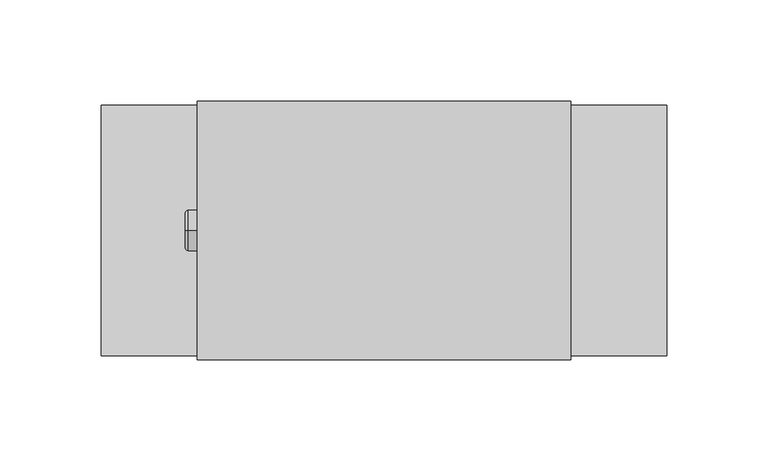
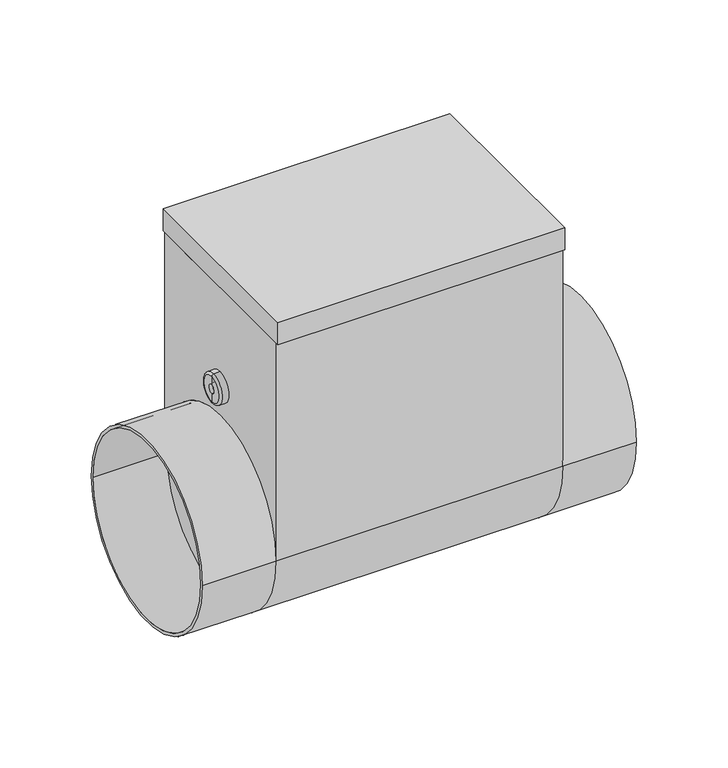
"""IFC4 building model written with IfcOpenShell, lengths in millimetres: proxy geometry, СВ_ВоздухонагревательЭлектрический_КанальныйКруглый_DN100-315_SKH-E : SKH-E-125/1,5."""

from ifc_helpers import new_model, si_unit, point, frame, origin, place, context, project, spatial, polyline, circle_curve, ellipse_curve, trimmed, outline, extrude, source, transform, mapped, element, save
from ifc_brep_helpers import plane_surface, cylinder_surface, revolved_surface, advanced_brep


def mechanical_equipment_228ba155(model_context):
    return source(origin(), model_context, "Body", "SolidModel", [
        extrude(outline(polyline([(92.5, -64.0), (-92.5, -64.0), (-92.5, 64.0), (92.5, 64.0), (92.5, -64.0)])), frame((0.0, 0.0, 149.0), z_axis=(0.0, 0.0, 1.0), x_axis=(1.0, 0.0, 0.0)), (0.0, 0.0, 1.0), 15.0),
        advanced_brep(
        [(-140.0, -62.0, 0.0), (-140.0, 62.0, 0.0), (-140.0, -60.0, 0.0), (-140.0, 60.0, 0.0), (-92.5, 60.0, 0.0), (-92.5, -60.0, 0.0), (-92.5, 62.0, 0.0), (-92.5, -62.0, 0.0), (92.5, -60.0, 0.0), (92.5, 60.0, 0.0), (92.5, -62.0, 149.0), (92.5, -62.0, 0.0), (92.5, 62.0, 0.0), (92.5, 62.0, 149.0), (-92.5, -62.0, 149.0), (-92.5, 62.0, 149.0), (140.0, -62.0, 0.0), (140.0, 62.0, 0.0), (140.0, -60.0, 0.0), (140.0, 60.0, 0.0)],
        [
            (0, 1, circle_curve(frame((-140.0, 0.0, 0.0), z_axis=(-1.0, 0.0, 0.0), x_axis=(0.0, 1.0, 0.0)), 62.0)),
            (1, 0, circle_curve(frame((-140.0, 0.0, 0.0), z_axis=(-1.0, 0.0, 0.0), x_axis=(0.0, 1.0, 0.0)), 62.0)),
            (2, 3, circle_curve(frame((-140.0, 0.0, 0.0), z_axis=(1.0, 0.0, 0.0), x_axis=(0.0, 1.0, 0.0)), 60.0)),
            (3, 2, circle_curve(frame((-140.0, 0.0, 0.0), z_axis=(1.0, 0.0, 0.0), x_axis=(0.0, 1.0, 0.0)), 60.0)),
            (3, 4),
            (4, 5, circle_curve(frame((-92.5, 0.0, 0.0), z_axis=(1.0, 0.0, 0.0), x_axis=(0.0, 1.0, 0.0)), 60.0)),
            (5, 2),
            (5, 4, circle_curve(frame((-92.5, 0.0, 0.0), z_axis=(1.0, 0.0, 0.0), x_axis=(0.0, 1.0, 0.0)), 60.0)),
            (1, 6),
            (6, 7, circle_curve(frame((-92.5, 0.0, 0.0), z_axis=(-1.0, 0.0, 0.0), x_axis=(0.0, 1.0, 0.0)), 62.0)),
            (7, 0),
            (7, 6, circle_curve(frame((-92.5, 0.0, 0.0), z_axis=(-1.0, 0.0, 0.0), x_axis=(0.0, 1.0, 0.0)), 62.0)),
            (8, 9, circle_curve(frame((92.5, 0.0, 0.0), z_axis=(1.0, 0.0, 0.0), x_axis=(0.0, 1.0, 0.0)), 60.0)),
            (9, 8, circle_curve(frame((92.5, 0.0, 0.0), z_axis=(1.0, 0.0, 0.0), x_axis=(0.0, 1.0, 0.0)), 60.0)),
            (10, 11),
            (11, 12, circle_curve(frame((92.5, 0.0, 0.0), z_axis=(-1.0, 0.0, 0.0), x_axis=(0.0, 1.0, 0.0)), 62.0)),
            (12, 13),
            (13, 10),
            (7, 14),
            (14, 15),
            (15, 6),
            (6, 12),
            (12, 11, circle_curve(frame((92.5, 0.0, 0.0), z_axis=(-1.0, 0.0, 0.0), x_axis=(0.0, 1.0, 0.0)), 62.0)),
            (11, 7),
            (16, 17, circle_curve(frame((140.0, 0.0, 0.0), z_axis=(1.0, 0.0, 0.0), x_axis=(0.0, 1.0, 0.0)), 62.0)),
            (17, 16, circle_curve(frame((140.0, 0.0, 0.0), z_axis=(1.0, 0.0, 0.0), x_axis=(0.0, 1.0, 0.0)), 62.0)),
            (18, 19, circle_curve(frame((140.0, 0.0, 0.0), z_axis=(-1.0, 0.0, 0.0), x_axis=(0.0, 1.0, 0.0)), 60.0)),
            (19, 18, circle_curve(frame((140.0, 0.0, 0.0), z_axis=(-1.0, 0.0, 0.0), x_axis=(0.0, 1.0, 0.0)), 60.0)),
            (18, 8),
            (9, 19),
            (16, 11),
            (12, 17),
            (10, 14),
            (15, 13),
        ],
        [
            plane_surface(frame((-140.0, 60.0, 0.0), z_axis=(-1.0, 0.0, 0.0), x_axis=(0.0, 0.0, 1.0))),
            revolved_surface(polyline([(-140.0, 60.0, 0.0), (-92.5, 60.0, 0.0)]), (-140.0, 0.0, 0.0), (-1.0, 0.0, 0.0)),
            cylinder_surface(frame((0.0, 0.0, 0.0), z_axis=(1.0, 0.0, 0.0), x_axis=(0.0, 1.0, 0.0)), 62.0),
            plane_surface(frame((92.5, 62.0, 0.0), z_axis=(1.0, 0.0, 0.0), x_axis=(0.0, -1.0, 0.0))),
            plane_surface(frame((-92.5, 62.0, 0.0), z_axis=(-1.0, 0.0, 0.0), x_axis=(0.0, 1.0, 0.0))),
            cylinder_surface(frame((-92.5, 0.0, 0.0), z_axis=(1.0, 0.0, 0.0), x_axis=(0.0, 1.0, 0.0)), 62.0),
            plane_surface(frame((140.0, 60.0, 0.0), z_axis=(1.0, 0.0, 0.0), x_axis=(0.0, 0.0, -1.0))),
            revolved_surface(polyline([(92.5, 60.0, 0.0), (140.0, 60.0, 0.0)]), (92.5, 0.0, 0.0), (-1.0, 0.0, 0.0)),
            plane_surface(frame((-92.5, -62.0, 149.0), z_axis=(0.0, -1.0, 0.0), x_axis=(-1.0, 0.0, 0.0))),
            plane_surface(frame((-92.5, 62.0, 149.0), z_axis=(0.0, 1.0, 0.0), x_axis=(1.0, 0.0, 0.0))),
            plane_surface(frame((92.5, -62.0, 149.0), z_axis=(0.0, 0.0, 1.0), x_axis=(0.0, 1.0, 0.0))),
        ],
        [
            (0, [[1, 2], [3, 4]]),
            (1, [[-4, 5, 6, 7]]),
            (1, [[-3, -7, 8, -5]]),
            (2, [[-2, 9, 10, 11]]),
            (2, [[-1, -11, 12, -9]]),
            (3, [[13, 14]]),
            (3, [[15, 16, 17, 18]]),
            (4, [[-8, -6]]),
            (4, [[19, 20, 21, -12]]),
            (5, [[-10, 22, 23, 24]]),
            (6, [[25, 26], [27, 28]]),
            (7, [[-27, 29, -14, 30]]),
            (7, [[-28, -30, -13, -29]]),
            (2, [[-25, 31, -23, 32]]),
            (2, [[-26, -32, -16, -31]]),
            (8, [[33, -19, -24, -15]]),
            (9, [[-17, -22, -21, 34]]),
            (10, [[-33, -18, -34, -20]]),
        ],
    ),
        advanced_brep(
        [(-96.7840134, 0.0, 72.0), (-96.7840134, 0.0, 92.0), (-92.5, 0.0, 92.0), (-92.5, 0.0, 72.0), (-98.2459771, 0.0, 73.4619637), (-98.2459771, 0.0, 90.5380363), (-98.2459771, 0.0, 78.8948071), (-98.2459771, 0.0, 85.1051929), (-95.9138357, 0.0, 78.8948071), (-95.9138357, 0.0, 85.1051929), (-95.9138357, 0.0, 82.0), (-92.5, 0.0, 82.0)],
        [
            (0, 1, circle_curve(frame((-96.7840134, 0.0, 82.0), z_axis=(1.0, 0.0, 0.0), x_axis=(0.0, 0.0, 1.0)), 10.0)),
            (1, 2),
            (2, 3, circle_curve(frame((-92.5, 0.0, 82.0), z_axis=(-1.0, 0.0, 0.0), x_axis=(0.0, 0.0, 1.0)), 10.0)),
            (3, 0),
            (1, 0, circle_curve(frame((-96.7840134, 0.0, 82.0), z_axis=(1.0, 0.0, 0.0), x_axis=(0.0, 0.0, 1.0)), 10.0)),
            (3, 2, circle_curve(frame((-92.5, 0.0, 82.0), z_axis=(-1.0, 0.0, 0.0), x_axis=(0.0, 0.0, 1.0)), 10.0)),
            (4, 5, circle_curve(frame((-98.2459771, 0.0, 82.0), z_axis=(1.0, 0.0, 0.0), x_axis=(0.0, 0.0, 1.0)), 8.5380363)),
            (5, 1, circle_curve(frame((-96.7840134, 0.0, 90.5380363), z_axis=(0.0, 1.0, 0.0), x_axis=(1.0, 0.0, 0.0)), 1.4619637)),
            (0, 4, circle_curve(frame((-96.7840134, 0.0, 73.4619637), z_axis=(0.0, 1.0, 0.0), x_axis=(1.0, 0.0, 0.0)), 1.4619637)),
            (5, 4, circle_curve(frame((-98.2459771, 0.0, 82.0), z_axis=(1.0, 0.0, 0.0), x_axis=(0.0, 0.0, 1.0)), 8.5380363)),
            (6, 7, circle_curve(frame((-98.2459771, 0.0, 82.0), z_axis=(1.0, 0.0, 0.0), x_axis=(0.0, 0.0, 1.0)), 3.1051929)),
            (7, 5),
            (4, 6),
            (7, 6, circle_curve(frame((-98.2459771, 0.0, 82.0), z_axis=(1.0, 0.0, 0.0), x_axis=(0.0, 0.0, 1.0)), 3.1051929)),
            (8, 9, circle_curve(frame((-95.9138357, 0.0, 82.0), z_axis=(1.0, 0.0, 0.0), x_axis=(0.0, 0.0, 1.0)), 3.1051929)),
            (9, 7),
            (6, 8),
            (9, 8, circle_curve(frame((-95.9138357, 0.0, 82.0), z_axis=(1.0, 0.0, 0.0), x_axis=(0.0, 0.0, 1.0)), 3.1051929)),
            (10, 9),
            (8, 10),
            (2, 11),
            (11, 3),
        ],
        [
            cylinder_surface(frame((-128.1635229, 0.0, 82.0), z_axis=(-1.0, 0.0, 0.0), x_axis=(0.0, 0.0, 1.0)), 10.0),
            revolved_surface(trimmed(ellipse_curve(frame((-96.7840134, 0.0, 90.5380363), z_axis=(0.0, -1.0, 0.0), x_axis=(1.0, 0.0, 0.0)), 1.4619637, 1.4619637), [point((-96.7840134, 0.0, 92.0))], [point((-98.2459771, 0.0, 90.5380363))], True, "CARTESIAN"), (-128.1635229, 0.0, 82.0), (-1.0, 0.0, 0.0)),
            plane_surface(frame((-98.2459771, 0.0, 82.0), z_axis=(-1.0, 0.0, 0.0), x_axis=(0.0, 0.0, 1.0))),
            revolved_surface(polyline([(-98.2459771, 0.0, 85.1051929), (-95.9138357, 0.0, 85.1051929)]), (-128.1635229, 0.0, 82.0), (-1.0, 0.0, 0.0)),
            plane_surface(frame((-95.9138357, 0.0, 82.0), z_axis=(-1.0, 0.0, 0.0), x_axis=(0.0, 0.0, 1.0))),
            plane_surface(frame((-92.5, 0.0, 82.0), z_axis=(1.0, 0.0, 0.0), x_axis=(0.0, 0.0, 1.0))),
        ],
        [
            (0, [[1, 2, 3, 4]]),
            (0, [[5, -4, 6, -2]]),
            (1, [[7, 8, -1, 9]]),
            (1, [[10, -9, -5, -8]]),
            (2, [[11, 12, -7, 13]]),
            (2, [[14, -13, -10, -12]]),
            (3, [[15, 16, -11, 17]]),
            (3, [[18, -17, -14, -16]]),
            (4, [[19, -15, 20]]),
            (4, [[-20, -18, -19]]),
            (5, [[-3, 21, 22]]),
            (5, [[-6, -22, -21]]),
        ],
    ),
    ])


if __name__ == "__main__":
    model = new_model("IFC4")
    model_context = context("Model", 3, world=origin())
    ifc_project = project(units=[si_unit("LENGTHUNIT", "METRE", prefix="MILLI")], contexts=[model_context])
    site = spatial("IfcSite", under=ifc_project)
    building = spatial("IfcBuilding", under=site)
    placement = place(None, origin())
    mechanical_equipment_shape = mechanical_equipment_228ba155(model_context)
    element("IfcBuildingElementProxy", 1, Name="СВ_ВоздухонагревательЭлектрический_КанальныйКруглый_DN100-315_SKH-E : SKH-E-125/1,5", ObjectType="СВ_ВоздухонагревательЭлектрический_КанальныйКруглый_DN100-315_SKH-E : SKH-E-125/1,5", at=placement, inside=building, context=model_context, shape_type="MappedRepresentation", body=[
        mapped(mechanical_equipment_shape, transform((0.0, 0.0, 0.0), x_axis=(1.0, 0.0, 0.0), y_axis=(0.0, 1.0, 0.0), z_axis=(0.0, 0.0, 1.0))),
    ])
    save(model, "model.ifc")
